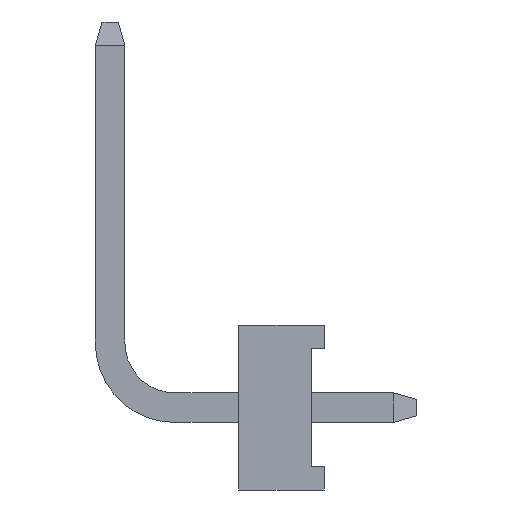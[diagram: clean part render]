
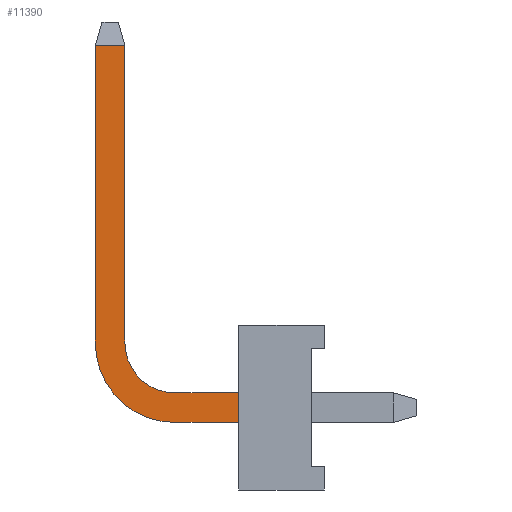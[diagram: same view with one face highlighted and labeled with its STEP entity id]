
A CAD part, left-side view. The second image highlights one B-rep face of the part: STEP entity #11390.
In plain terms, the highlighted planar face has unit normal (-1, 0, 0).
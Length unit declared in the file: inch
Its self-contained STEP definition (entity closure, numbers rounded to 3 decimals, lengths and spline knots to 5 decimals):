
#1745=DIRECTION('',(0.,0.,-1.));
#1746=VECTOR('',#1745,0.045);
#1747=CARTESIAN_POINT('',(-0.9585,0.065,0.0225));
#1748=LINE('',#1747,#1746);
#3929=DIRECTION('',(0.,-1.,0.));
#3930=VECTOR('',#3929,0.045);
#3931=CARTESIAN_POINT('',(-0.9585,0.2825,0.55));
#3932=LINE('',#3931,#3930);
#3933=DIRECTION('',(0.,0.,-1.));
#3934=VECTOR('',#3933,0.452);
#3935=CARTESIAN_POINT('',(-0.9585,0.2375,0.55));
#3936=LINE('',#3935,#3934);
#3937=CARTESIAN_POINT('',(-0.9585,0.162,0.098));
#3938=DIRECTION('',(-1.,0.,0.));
#3939=DIRECTION('',(0.,1.,0.));
#3940=AXIS2_PLACEMENT_3D('',#3937,#3938,#3939);
#3942=DIRECTION('',(0.,-1.,0.));
#3943=VECTOR('',#3942,0.097);
#3944=CARTESIAN_POINT('',(-0.9585,0.162,0.0225));
#3945=LINE('',#3944,#3943);
#4064=DIRECTION('',(0.,0.,-1.));
#4065=VECTOR('',#4064,0.452);
#4066=CARTESIAN_POINT('',(-0.9585,0.2825,0.55));
#4067=LINE('',#4066,#4065);
#4072=CARTESIAN_POINT('',(-0.9585,0.162,0.098));
#4073=DIRECTION('',(-1.,0.,0.));
#4074=DIRECTION('',(0.,1.,0.));
#4075=AXIS2_PLACEMENT_3D('',#4072,#4073,#4074);
#4081=DIRECTION('',(0.,-1.,0.));
#4082=VECTOR('',#4081,0.097);
#4083=CARTESIAN_POINT('',(-0.9585,0.162,-0.0225));
#4084=LINE('',#4083,#4082);
#5126=CARTESIAN_POINT('',(-0.9585,0.2375,0.098));
#5128=VERTEX_POINT('',#5126);
#5129=CARTESIAN_POINT('',(-0.9585,0.2825,0.098));
#5131=VERTEX_POINT('',#5129);
#5134=CARTESIAN_POINT('',(-0.9585,0.162,0.0225));
#5136=VERTEX_POINT('',#5134);
#5137=CARTESIAN_POINT('',(-0.9585,0.162,-0.0225));
#5139=VERTEX_POINT('',#5137);
#5141=CARTESIAN_POINT('',(-0.9585,0.065,0.0225));
#5142=CARTESIAN_POINT('',(-0.9585,0.065,-0.0225));
#5143=VERTEX_POINT('',#5141);
#5144=VERTEX_POINT('',#5142);
#5375=CARTESIAN_POINT('',(-0.9585,0.2825,0.55));
#5376=VERTEX_POINT('',#5375);
#5379=CARTESIAN_POINT('',(-0.9585,0.2375,0.55));
#5380=VERTEX_POINT('',#5379);
#11368=CARTESIAN_POINT('',(-0.9585,0.2375,0.585));
#11369=DIRECTION('',(-1.,0.,0.));
#11370=DIRECTION('',(0.,1.,0.));
#11371=AXIS2_PLACEMENT_3D('',#11368,#11369,#11370);
#11372=PLANE('',#11371);
#11374=ORIENTED_EDGE('',*,*,#11373,.T.);
#11376=ORIENTED_EDGE('',*,*,#11375,.T.);
#11378=ORIENTED_EDGE('',*,*,#11377,.T.);
#11380=ORIENTED_EDGE('',*,*,#11379,.T.);
#11381=ORIENTED_EDGE('',*,*,#7550,.T.);
#11383=ORIENTED_EDGE('',*,*,#11382,.F.);
#11385=ORIENTED_EDGE('',*,*,#11384,.F.);
#11387=ORIENTED_EDGE('',*,*,#11386,.F.);
#11388=EDGE_LOOP('',(#11374,#11376,#11378,#11380,#11381,#11383,#11385,#11387));
#11389=FACE_OUTER_BOUND('',#11388,.F.);
#11390=ADVANCED_FACE('',(#11389),#11372,.T.);
#3941=CIRCLE('',#3940,0.0755);
#4076=CIRCLE('',#4075,0.1205);
#7550=EDGE_CURVE('',#5143,#5144,#1748,.T.);
#11373=EDGE_CURVE('',#5376,#5380,#3932,.T.);
#11375=EDGE_CURVE('',#5380,#5128,#3936,.T.);
#11377=EDGE_CURVE('',#5128,#5136,#3941,.T.);
#11379=EDGE_CURVE('',#5136,#5143,#3945,.T.);
#11382=EDGE_CURVE('',#5139,#5144,#4084,.T.);
#11384=EDGE_CURVE('',#5131,#5139,#4076,.T.);
#11386=EDGE_CURVE('',#5376,#5131,#4067,.T.);
